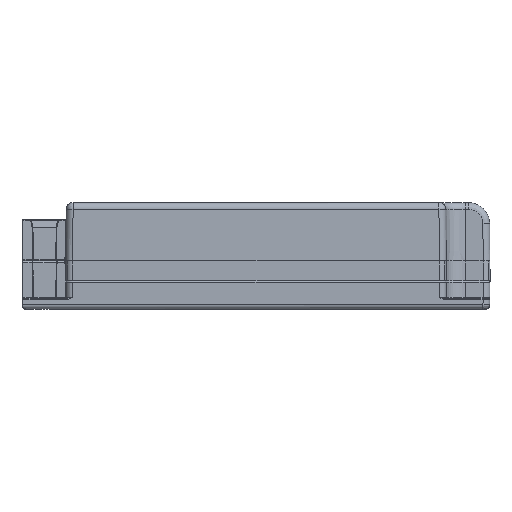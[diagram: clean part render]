
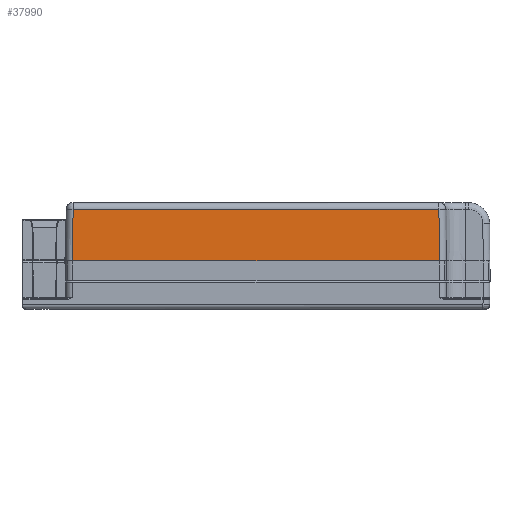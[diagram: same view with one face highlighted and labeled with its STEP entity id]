
A CAD part, top view. The second image highlights one B-rep face of the part: STEP entity #37990.
In plain terms, the highlighted planar face has unit normal (0, 0.009, 1).
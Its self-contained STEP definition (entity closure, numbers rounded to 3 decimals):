
#615 = LINE ( 'NONE', #2392, #620 ) ;
#620 = VECTOR ( 'NONE', #2399, 1000. ) ;
#642 = LINE ( 'NONE', #2437, #645 ) ;
#645 = VECTOR ( 'NONE', #2438, 1000. ) ;
#813 = LINE ( 'NONE', #2721, #825 ) ;
#825 = VECTOR ( 'NONE', #2710, 1000. ) ;
#848 = LINE ( 'NONE', #2782, #851 ) ;
#851 = VECTOR ( 'NONE', #2783, 1000. ) ;
#2002 = CARTESIAN_POINT ( 'NONE',  ( 98.1, 11.3, 37.5 ) ) ;
#2392 = CARTESIAN_POINT ( 'NONE',  ( 99.7, 11.3, 37.5 ) ) ;
#2399 = DIRECTION ( 'NONE',  ( 1., 0., 0. ) ) ;
#2437 = CARTESIAN_POINT ( 'NONE',  ( 98.1, 11.286, 37.5 ) ) ;
#2438 = DIRECTION ( 'NONE',  ( -0.009, 1., -0.009 ) ) ;
#2710 = DIRECTION ( 'NONE',  ( -1., 0., 0. ) ) ;
#2721 = CARTESIAN_POINT ( 'NONE',  ( 99.7, 23.414, 37.394 ) ) ;
#2782 = CARTESIAN_POINT ( 'NONE',  ( 11.907, 12.066, 37.493 ) ) ;
#2783 = DIRECTION ( 'NONE',  ( -0.009, -1., 0.009 ) ) ;
#9515 = VERTEX_POINT ( 'NONE', #19969 ) ;
#15180 = VERTEX_POINT ( 'NONE', #19432 ) ;
#16842 = AXIS2_PLACEMENT_3D ( 'NONE', #22344, #22345, #22346 ) ;
#19432 = CARTESIAN_POINT ( 'NONE',  ( 97.994, 23.414, 37.394 ) ) ;
#19435 = CARTESIAN_POINT ( 'NONE',  ( 11.9, 11.3, 37.5 ) ) ;
#19969 = CARTESIAN_POINT ( 'NONE',  ( 12.006, 23.414, 37.394 ) ) ;
#22324 = PLANE ( 'NONE',  #16842 ) ;
#22344 = CARTESIAN_POINT ( 'NONE',  ( 99.7, 11.3, 37.5 ) ) ;
#22345 = DIRECTION ( 'NONE',  ( 0., 0.009, 1. ) ) ;
#22346 = DIRECTION ( 'NONE',  ( 0., -1., 0.009 ) ) ;
#22764 = FACE_OUTER_BOUND ( 'NONE', #38764, .T. ) ;
#24804 = VERTEX_POINT ( 'NONE', #19435 ) ;
#30435 = VERTEX_POINT ( 'NONE', #2002 ) ;
#30899 = EDGE_CURVE ( 'NONE', #24804, #30435, #615, .T. ) ;
#30915 = EDGE_CURVE ( 'NONE', #30435, #15180, #642, .T. ) ;
#31031 = EDGE_CURVE ( 'NONE', #15180, #9515, #813, .T. ) ;
#31051 = EDGE_CURVE ( 'NONE', #9515, #24804, #848, .T. ) ;
#32892 = ORIENTED_EDGE ( 'NONE', *, *, #30899, .T. ) ;
#32893 = ORIENTED_EDGE ( 'NONE', *, *, #30915, .T. ) ;
#32894 = ORIENTED_EDGE ( 'NONE', *, *, #31031, .T. ) ;
#32895 = ORIENTED_EDGE ( 'NONE', *, *, #31051, .T. ) ;
#37990 = ADVANCED_FACE ( 'NONE', ( #22764 ), #22324, .T. ) ;
#38764 = EDGE_LOOP ( 'NONE', ( #32892, #32893, #32894, #32895 ) ) ;
